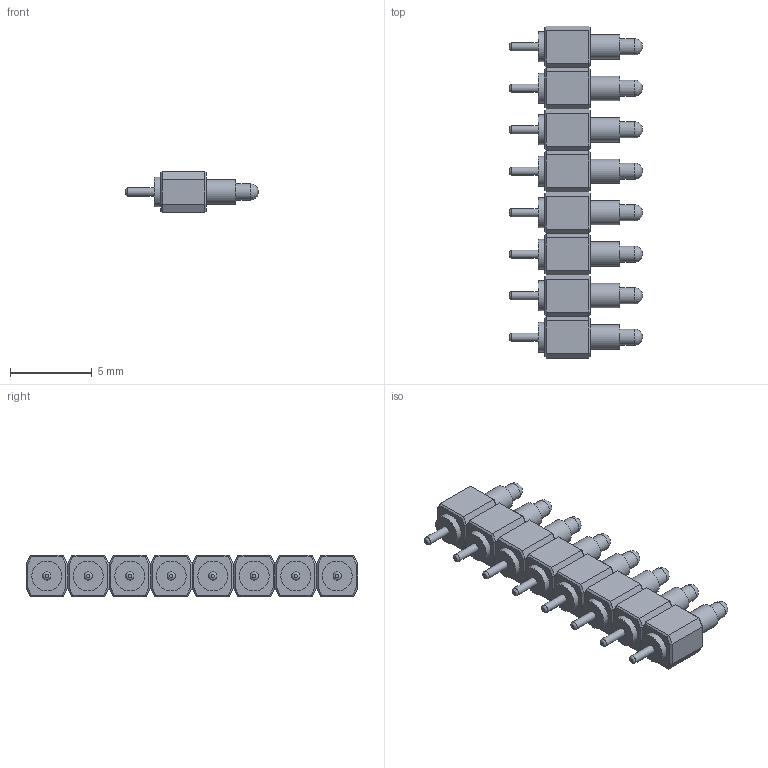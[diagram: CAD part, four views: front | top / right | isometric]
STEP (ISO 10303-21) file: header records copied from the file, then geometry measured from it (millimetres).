
FILE_DESCRIPTION(('FreeCAD Model'),'2;1');
FILE_NAME('Open CASCADE Shape Model','2024-10-25T12:06:12',('Author'),( ''),'Open CASCADE STEP processor 7.5','FreeCAD','Unknown');
FILE_SCHEMA(('AUTOMOTIVE_DESIGN { 1 0 10303 214 1 1 1 1 }'));
Length unit declared in the file: millimetre
Products named in the file (25): 816-22-008; P099; Body198; Contact097; P097; Body192; Contact098; P105; Body194; Contact099; P100; Body193; Contact104; P109; Body217; Contact105; P101; Body210; Contact107; P103; Body209; Contact106; P111; Body213; Contact108
Assembly tree (24 placements, depth 3):
  816-22-008
    P099
      Body198
      Contact097
    P097
      Body192
      Contact098
    P105
      Body194
      Contact099
    P100
      Body193
      Contact104
    P109
      Body217
      Contact105
    P101
      Body210
      Contact107
    P103
      Body209
      Contact106
    P111
      Body213
      Contact108
Bounding box: 8.15 x 20.32 x 2.54 mm (x, y, z)
Volume: 181.8 mm3; surface area: 660.2 mm2
Topology: 16 solids, 16 shells, 304 faces, 600 edges, 352 vertices
Faces by surface type: plane 248, cylinder 40, revolution 16
Full cylindrical faces by diameter (mm): 0.5 x8, 1 x8, 1.5 x16, 1.83 x8
Entity records: 16107 total; most frequent: CARTESIAN_POINT 2641, DIRECTION 2546, LINE 1608, VECTOR 1608, ORIENTED_EDGE 1200, PCURVE 1200, DEFINITIONAL_REPRESENTATION 1200, EDGE_CURVE 600
